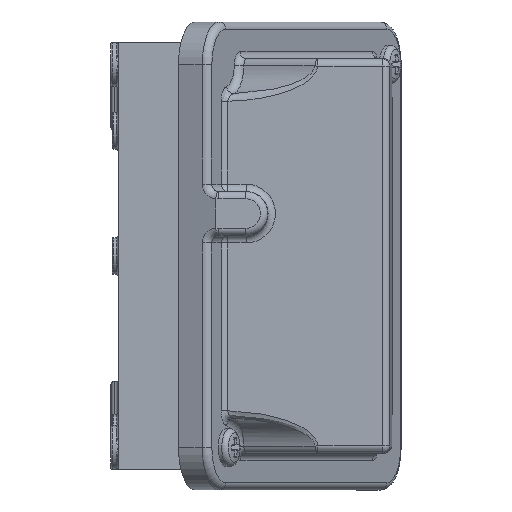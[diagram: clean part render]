
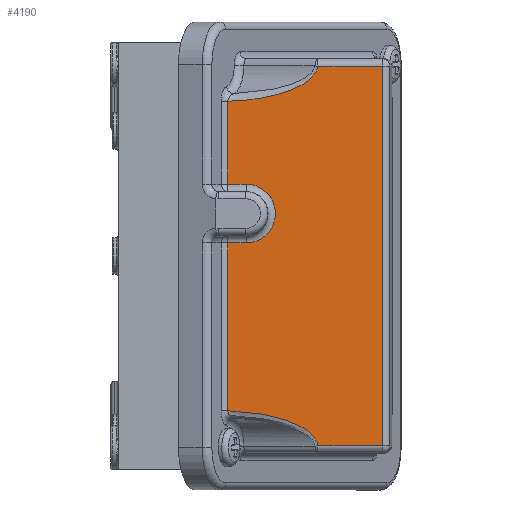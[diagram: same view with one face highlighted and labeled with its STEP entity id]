
A CAD part, front view. The second image highlights one B-rep face of the part: STEP entity #4190.
In plain terms, the highlighted planar face has unit normal (-0.005, -1, 0).
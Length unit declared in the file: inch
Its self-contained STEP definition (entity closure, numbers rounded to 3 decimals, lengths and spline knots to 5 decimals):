
#2 = EDGE_CURVE ( 'NONE', #2110, #1560, #6486, .T. ) ;
#88 = EDGE_CURVE ( 'NONE', #7557, #168, #2249, .T. ) ;
#168 = VERTEX_POINT ( 'NONE', #4816 ) ;
#179 = VECTOR ( 'NONE', #274, 39.37008 ) ;
#274 = DIRECTION ( 'NONE',  ( -1., 0.005, 0. ) ) ;
#481 = CARTESIAN_POINT ( 'NONE',  ( 0.932, -3.55622, -1.313 ) ) ;
#507 = CARTESIAN_POINT ( 'NONE',  ( 2.30517, -3.56338, 0.1105 ) ) ;
#618 = LINE ( 'NONE', #5413, #5975 ) ;
#721 = VERTEX_POINT ( 'NONE', #7538 ) ;
#934 = CARTESIAN_POINT ( 'NONE',  ( 1.67399, -3.56009, 1.44199 ) ) ;
#1169 = CARTESIAN_POINT ( 'NONE',  ( 2.30517, -3.56338, 0.6095 ) ) ;
#1247 = CARTESIAN_POINT ( 'NONE',  ( 1.08558, -3.55702, 0.1105 ) ) ;
#1257 = LINE ( 'NONE', #1169, #5971 ) ;
#1477 = ORIENTED_EDGE ( 'NONE', *, *, #1657, .T. ) ;
#1525 = CARTESIAN_POINT ( 'NONE',  ( 0.932, -3.55622, 1.313 ) ) ;
#1560 = VERTEX_POINT ( 'NONE', #7630 ) ;
#1657 = EDGE_CURVE ( 'NONE', #5787, #721, #1257, .T. ) ;
#1735 = VERTEX_POINT ( 'NONE', #4766 ) ;
#1835 = LINE ( 'NONE', #5373, #3575 ) ;
#1886 = CARTESIAN_POINT ( 'NONE',  ( 1.36714, -3.55849, 1.32254 ) ) ;
#2107 = CARTESIAN_POINT ( 'NONE',  ( 2.30517, -3.56338, -1.61 ) ) ;
#2110 = VERTEX_POINT ( 'NONE', #1247 ) ;
#2249 =( BOUNDED_CURVE ( )  B_SPLINE_CURVE ( 3, ( #6305, #934, #1886, #1525 ),
 .UNSPECIFIED., .F., .T. ) 
 B_SPLINE_CURVE_WITH_KNOTS ( ( 4, 4 ),
 ( 3.18961, 4.65567 ),
 .UNSPECIFIED. ) 
 CURVE ( )  GEOMETRIC_REPRESENTATION_ITEM ( )  RATIONAL_B_SPLINE_CURVE ( ( 1., 0.829, 0.829, 1. ) ) 
 REPRESENTATION_ITEM ( '' )  );
#2317 = DIRECTION ( 'NONE',  ( -1., 0.005, 0. ) ) ;
#2361 = EDGE_CURVE ( 'NONE', #168, #5787, #5894, .T. ) ;
#2501 =( BOUNDED_CURVE ( )  B_SPLINE_CURVE ( 3, ( #481, #7820, #5431, #4751 ),
 .UNSPECIFIED., .F., .T. ) 
 B_SPLINE_CURVE_WITH_KNOTS ( ( 4, 4 ),
 ( 1.62751, 3.09357 ),
 .UNSPECIFIED. ) 
 CURVE ( )  GEOMETRIC_REPRESENTATION_ITEM ( )  RATIONAL_B_SPLINE_CURVE ( ( 1., 0.829, 0.829, 1. ) ) 
 REPRESENTATION_ITEM ( '' )  );
#2684 = VERTEX_POINT ( 'NONE', #7632 ) ;
#2715 = AXIS2_PLACEMENT_3D ( 'NONE', #7795, #3127, #5448 ) ;
#2859 = DIRECTION ( 'NONE',  ( 0.005, 1., 0. ) ) ;
#2869 = EDGE_CURVE ( 'NONE', #721, #2110, #6609, .T. ) ;
#2910 = DIRECTION ( 'NONE',  ( 0., 0., -1. ) ) ;
#3051 = EDGE_CURVE ( 'NONE', #2684, #7557, #5674, .T. ) ;
#3127 = DIRECTION ( 'NONE',  ( 0.005, 1., 0. ) ) ;
#3180 = CARTESIAN_POINT ( 'NONE',  ( 1.69491, -3.5602, -1.61 ) ) ;
#3575 = VECTOR ( 'NONE', #4842, 39.37008 ) ;
#3882 = DIRECTION ( 'NONE',  ( 0., 0., -1. ) ) ;
#4030 = PLANE ( 'NONE',  #4936 ) ;
#4190 = ADVANCED_FACE ( 'NONE', ( #4638 ), #4030, .F. ) ;
#4201 = ORIENTED_EDGE ( 'NONE', *, *, #6012, .T. ) ;
#4274 = EDGE_CURVE ( 'NONE', #1735, #2684, #1835, .T. ) ;
#4335 = ORIENTED_EDGE ( 'NONE', *, *, #7102, .T. ) ;
#4583 = EDGE_LOOP ( 'NONE', ( #5070, #4201, #4335, #7420, #7535, #5242, #6618, #1477, #5142, #7658 ) ) ;
#4638 = FACE_OUTER_BOUND ( 'NONE', #4583, .T. ) ;
#4751 = CARTESIAN_POINT ( 'NONE',  ( 1.69491, -3.5602, -1.61 ) ) ;
#4766 = CARTESIAN_POINT ( 'NONE',  ( 2.24267, -3.56306, -1.61 ) ) ;
#4778 = VERTEX_POINT ( 'NONE', #3180 ) ;
#4816 = CARTESIAN_POINT ( 'NONE',  ( 0.932, -3.55622, 1.313 ) ) ;
#4842 = DIRECTION ( 'NONE',  ( 0., 0., 1. ) ) ;
#4912 = CARTESIAN_POINT ( 'NONE',  ( 0.932, -3.55622, 0.6095 ) ) ;
#4936 = AXIS2_PLACEMENT_3D ( 'NONE', #5252, #2859, #7668 ) ;
#5070 = ORIENTED_EDGE ( 'NONE', *, *, #5480, .T. ) ;
#5080 = CARTESIAN_POINT ( 'NONE',  ( 2.30517, -3.56338, 1.61 ) ) ;
#5142 = ORIENTED_EDGE ( 'NONE', *, *, #2869, .T. ) ;
#5213 = CARTESIAN_POINT ( 'NONE',  ( 1.69491, -3.5602, 1.61 ) ) ;
#5242 = ORIENTED_EDGE ( 'NONE', *, *, #88, .T. ) ;
#5252 = CARTESIAN_POINT ( 'NONE',  ( 2.30517, -3.56338, 1.6725 ) ) ;
#5373 = CARTESIAN_POINT ( 'NONE',  ( 2.24267, -3.56306, 1.6725 ) ) ;
#5384 = CARTESIAN_POINT ( 'NONE',  ( 0.932, -3.55622, -1.313 ) ) ;
#5413 = CARTESIAN_POINT ( 'NONE',  ( 0.932, -3.55622, 1.6725 ) ) ;
#5426 = CARTESIAN_POINT ( 'NONE',  ( 0.932, -3.55622, 1.6725 ) ) ;
#5431 = CARTESIAN_POINT ( 'NONE',  ( 1.67399, -3.56009, -1.44199 ) ) ;
#5448 = DIRECTION ( 'NONE',  ( -1., 0.005, 0. ) ) ;
#5480 = EDGE_CURVE ( 'NONE', #1560, #6513, #618, .T. ) ;
#5674 = LINE ( 'NONE', #5080, #179 ) ;
#5707 = DIRECTION ( 'NONE',  ( 1., -0.005, 0. ) ) ;
#5787 = VERTEX_POINT ( 'NONE', #4912 ) ;
#5894 = LINE ( 'NONE', #5426, #6719 ) ;
#5953 = DIRECTION ( 'NONE',  ( 1., -0.005, 0. ) ) ;
#5971 = VECTOR ( 'NONE', #5953, 39.37008 ) ;
#5975 = VECTOR ( 'NONE', #3882, 39.37008 ) ;
#6012 = EDGE_CURVE ( 'NONE', #6513, #4778, #2501, .T. ) ;
#6305 = CARTESIAN_POINT ( 'NONE',  ( 1.69491, -3.5602, 1.61 ) ) ;
#6486 = LINE ( 'NONE', #507, #7516 ) ;
#6513 = VERTEX_POINT ( 'NONE', #5384 ) ;
#6609 = CIRCLE ( 'NONE', #2715, 0.2495 ) ;
#6618 = ORIENTED_EDGE ( 'NONE', *, *, #2361, .T. ) ;
#6719 = VECTOR ( 'NONE', #2910, 39.37008 ) ;
#6938 = LINE ( 'NONE', #2107, #7749 ) ;
#7102 = EDGE_CURVE ( 'NONE', #4778, #1735, #6938, .T. ) ;
#7420 = ORIENTED_EDGE ( 'NONE', *, *, #4274, .T. ) ;
#7516 = VECTOR ( 'NONE', #2317, 39.37008 ) ;
#7535 = ORIENTED_EDGE ( 'NONE', *, *, #3051, .T. ) ;
#7538 = CARTESIAN_POINT ( 'NONE',  ( 1.08558, -3.55702, 0.6095 ) ) ;
#7557 = VERTEX_POINT ( 'NONE', #5213 ) ;
#7630 = CARTESIAN_POINT ( 'NONE',  ( 0.932, -3.55622, 0.1105 ) ) ;
#7632 = CARTESIAN_POINT ( 'NONE',  ( 2.24267, -3.56306, 1.61 ) ) ;
#7658 = ORIENTED_EDGE ( 'NONE', *, *, #2, .T. ) ;
#7668 = DIRECTION ( 'NONE',  ( -1., 0.005, 0. ) ) ;
#7749 = VECTOR ( 'NONE', #5707, 39.37008 ) ;
#7795 = CARTESIAN_POINT ( 'NONE',  ( 1.08558, -3.55702, 0.36 ) ) ;
#7820 = CARTESIAN_POINT ( 'NONE',  ( 1.36714, -3.55849, -1.32254 ) ) ;
